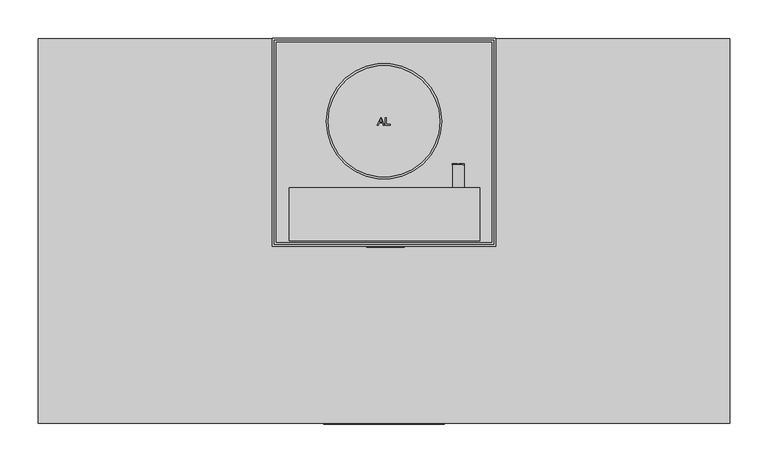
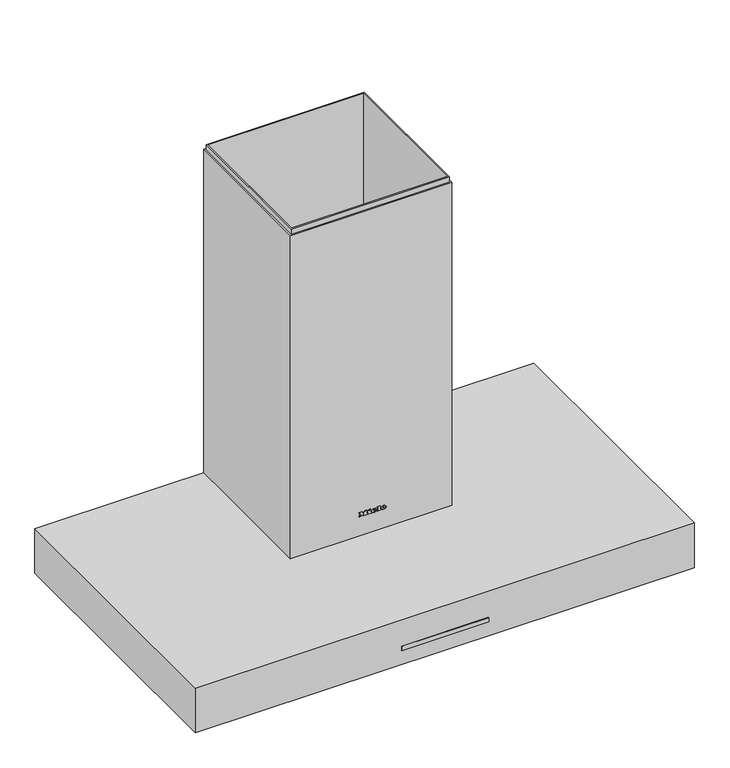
"""IFC4 building model written with IfcOpenShell, lengths in millimetres: proxy geometry, 10928070_B_DA6698W_BRWS : 28669830_B_10928070_DA6698W_BRWS."""

from ifc_helpers import new_model, si_unit, point, frame, frame_2d, origin, place, context, project, spatial, polyline, circle_curve, ellipse_curve, trimmed, segment, composite_curve, outline, extrude, faceted_brep, source, transform, mapped, element, save
from ifc_brep_helpers import plane_surface, cylinder_surface, revolved_surface, extruded_surface, advanced_brep


def specialty_equipment_04cf12e1(model_context):
    return source(origin(), model_context, "Body", "SolidModel", [
        advanced_brep(
        [(-270.0, -20.971114, 2.6236572), (-270.0, -76.028886, 17.3763428), (-270.0, -48.5, 10.0), (-270.0, -22.9370789, 1.9081045), (-270.0, -74.6840869, 15.7736735), (-270.0, -48.8105829, 8.840889)],
        [
            (0, 1, circle_curve(frame((-270.0, -48.5, 10.0), z_axis=(0.0, 0.25881904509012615, 0.9659258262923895), x_axis=(0.0, -0.9659258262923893, 0.2588190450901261)), 28.5)),
            (1, 2),
            (2, 0),
            (1, 0, circle_curve(frame((-270.0, -48.5, 10.0), z_axis=(0.0, 0.25881904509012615, 0.9659258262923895), x_axis=(0.0, -0.9659258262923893, 0.2588190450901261)), 28.5)),
            (0, 3),
            (3, 4, circle_curve(frame((-270.0, -48.8105829, 8.840889), z_axis=(0.0, 0.25881904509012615, 0.9659258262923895), x_axis=(0.0, -0.9659258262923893, 0.2588190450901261)), 26.7862224)),
            (4, 1),
            (4, 3, circle_curve(frame((-270.0, -48.8105829, 8.840889), z_axis=(0.0, 0.25881904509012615, 0.9659258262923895), x_axis=(0.0, -0.9659258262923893, 0.2588190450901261)), 26.7862224)),
            (3, 5),
            (5, 4),
        ],
        [
            plane_surface(frame((-270.0, -48.5, 10.0), z_axis=(0.0, 0.25881904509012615, 0.9659258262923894), x_axis=(0.0, -0.9659258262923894, 0.25881904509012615))),
            revolved_surface(polyline([(-270.0, -76.028886, 17.3763428), (-270.0, -74.6840869, 15.7736735)]), (-270.0, -48.5, 10.0), (0.0, -0.2588190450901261, -0.9659258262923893)),
            plane_surface(frame((-270.0, -48.8105829, 8.840889), z_axis=(0.0, -0.25881904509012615, -0.9659258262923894), x_axis=(0.0, -0.9659258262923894, 0.25881904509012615))),
        ],
        [
            (0, [[1, 2, 3]]),
            (0, [[-2, 4, -3]]),
            (1, [[-1, 5, 6, 7]]),
            (1, [[-4, -7, 8, -5]]),
            (2, [[-6, 9, 10]]),
            (2, [[-8, -10, -9]]),
        ],
    ),
        advanced_brep(
        [(0.0, -20.971114, 2.6236572), (0.0, -76.028886, 17.3763428), (0.0, -48.5, 10.0), (0.0, -22.9370789, 1.9081045), (0.0, -74.6840869, 15.7736735), (0.0, -48.8105829, 8.840889)],
        [
            (0, 1, circle_curve(frame((0.0, -48.5, 10.0), z_axis=(0.0, 0.2588190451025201, 0.9659258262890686), x_axis=(0.0, -0.9659258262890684, 0.25881904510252)), 28.5)),
            (1, 2),
            (2, 0),
            (1, 0, circle_curve(frame((0.0, -48.5, 10.0), z_axis=(0.0, 0.2588190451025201, 0.9659258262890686), x_axis=(0.0, -0.9659258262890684, 0.25881904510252)), 28.5)),
            (0, 3),
            (3, 4, circle_curve(frame((0.0, -48.8105829, 8.840889), z_axis=(0.0, 0.2588190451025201, 0.9659258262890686), x_axis=(0.0, -0.9659258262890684, 0.25881904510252)), 26.7862224)),
            (4, 1),
            (4, 3, circle_curve(frame((0.0, -48.8105829, 8.840889), z_axis=(0.0, 0.2588190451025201, 0.9659258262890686), x_axis=(0.0, -0.9659258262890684, 0.25881904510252)), 26.7862224)),
            (3, 5),
            (5, 4),
        ],
        [
            plane_surface(frame((0.0, -48.5, 10.0), z_axis=(0.0, 0.2588190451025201, 0.9659258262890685), x_axis=(0.0, -0.9659258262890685, 0.2588190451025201))),
            revolved_surface(polyline([(0.0, -76.028886, 17.3763428), (0.0, -74.6840869, 15.7736735)]), (0.0, -48.5, 10.0), (0.0, -0.25881904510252, -0.9659258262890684)),
            plane_surface(frame((0.0, -48.8105829, 8.840889), z_axis=(0.0, -0.2588190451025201, -0.9659258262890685), x_axis=(0.0, -0.9659258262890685, 0.2588190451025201))),
        ],
        [
            (0, [[1, 2, 3]]),
            (0, [[-2, 4, -3]]),
            (1, [[-1, 5, 6, 7]]),
            (1, [[-4, -7, 8, -5]]),
            (2, [[-6, 9, 10]]),
            (2, [[-8, -10, -9]]),
        ],
    ),
        advanced_brep(
        [(270.0, -20.971114, 2.6236572), (270.0, -76.028886, 17.3763428), (270.0, -48.5, 10.0), (270.0, -22.9370789, 1.9081045), (270.0, -74.6840869, 15.7736735), (270.0, -48.8105829, 8.840889)],
        [
            (0, 1, circle_curve(frame((270.0, -48.5, 10.0), z_axis=(0.0, 0.2588190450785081, 0.9659258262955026), x_axis=(0.0, -0.9659258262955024, 0.25881904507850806)), 28.5)),
            (1, 2),
            (2, 0),
            (1, 0, circle_curve(frame((270.0, -48.5, 10.0), z_axis=(0.0, 0.2588190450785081, 0.9659258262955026), x_axis=(0.0, -0.9659258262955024, 0.25881904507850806)), 28.5)),
            (0, 3),
            (3, 4, circle_curve(frame((270.0, -48.8105829, 8.840889), z_axis=(0.0, 0.2588190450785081, 0.9659258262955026), x_axis=(0.0, -0.9659258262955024, 0.25881904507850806)), 26.7862224)),
            (4, 1),
            (4, 3, circle_curve(frame((270.0, -48.8105829, 8.840889), z_axis=(0.0, 0.2588190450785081, 0.9659258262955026), x_axis=(0.0, -0.9659258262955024, 0.25881904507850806)), 26.7862224)),
            (3, 5),
            (5, 4),
        ],
        [
            plane_surface(frame((270.0, -48.5, 10.0), z_axis=(0.0, 0.2588190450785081, 0.9659258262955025), x_axis=(0.0, -0.9659258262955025, 0.2588190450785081))),
            revolved_surface(polyline([(270.0, -76.028886, 17.3763428), (270.0, -74.6840869, 15.7736735)]), (270.0, -48.5, 10.0), (0.0, -0.25881904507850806, -0.9659258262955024)),
            plane_surface(frame((270.0, -48.8105829, 8.840889), z_axis=(0.0, -0.2588190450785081, -0.9659258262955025), x_axis=(0.0, -0.9659258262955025, 0.2588190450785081))),
        ],
        [
            (0, [[1, 2, 3]]),
            (0, [[-2, 4, -3]]),
            (1, [[-1, 5, 6, 7]]),
            (1, [[-4, -7, 8, -5]]),
            (2, [[-6, 9, 10]]),
            (2, [[-8, -10, -9]]),
        ],
    ),
        extrude(outline(polyline([(131.6666667, -106.0), (131.6666667, -464.0), (-131.6666667, -464.0), (-131.6666667, -106.0), (131.6666667, -106.0)])), frame((0.0, 0.0, 6.5), z_axis=(0.0, 0.0, 1.0), x_axis=(1.0, 0.0, 0.0)), (0.0, 0.0, 1.0), 6.0),
        extrude(outline(polyline([(140.6666667, -97.0), (140.6666667, -473.0), (-140.6666667, -473.0), (-140.6666667, -97.0), (140.6666667, -97.0)]), holes=[polyline([(131.6666667, -106.0), (-131.6666667, -106.0), (-131.6666667, -464.0), (131.6666667, -464.0), (131.6666667, -106.0)])]), frame((0.0, 0.0, 5.0), z_axis=(0.0, 0.0, 1.0), x_axis=(1.0, 0.0, 0.0)), (0.0, 0.0, 1.0), 9.0),
        extrude(outline(polyline([(149.6666667, -106.0), (413.0, -106.0), (413.0, -464.0), (149.6666667, -464.0), (149.6666667, -106.0)])), frame((0.0, 0.0, 6.5), z_axis=(0.0, 0.0, 1.0), x_axis=(1.0, 0.0, 0.0)), (0.0, 0.0, 1.0), 6.0),
        extrude(outline(polyline([(140.6666667, -97.0), (422.0, -97.0), (422.0, -473.0), (140.6666667, -473.0), (140.6666667, -97.0)]), holes=[polyline([(149.6666667, -106.0), (149.6666667, -464.0), (413.0, -464.0), (413.0, -106.0), (149.6666667, -106.0)])]), frame((0.0, 0.0, 5.0), z_axis=(0.0, 0.0, 1.0), x_axis=(1.0, 0.0, 0.0)), (0.0, 0.0, 1.0), 9.0),
        extrude(outline(polyline([(-149.6666667, -106.0), (-149.6666667, -464.0), (-413.0, -464.0), (-413.0, -106.0), (-149.6666667, -106.0)])), frame((0.0, 0.0, 6.5), z_axis=(0.0, 0.0, 1.0), x_axis=(1.0, 0.0, 0.0)), (0.0, 0.0, 1.0), 6.0),
        extrude(outline(polyline([(-140.6666667, -97.0), (-140.6666667, -473.0), (-422.0, -473.0), (-422.0, -97.0), (-140.6666667, -97.0)]), holes=[polyline([(-149.6666667, -106.0), (-413.0, -106.0), (-413.0, -464.0), (-149.6666667, -464.0), (-149.6666667, -106.0)])]), frame((0.0, 0.0, 5.0), z_axis=(0.0, 0.0, 1.0), x_axis=(1.0, 0.0, 0.0)), (0.0, 0.0, 1.0), 9.0),
        extrude(outline(polyline([(16.5, -421.0), (16.5, -464.0), (-16.5, -464.0), (-16.5, -421.0), (16.5, -421.0)]), holes=[polyline([(10.0, -427.5), (-10.0, -427.5), (-10.0, -436.5), (10.0, -436.5), (10.0, -427.5)])]), frame((0.0, 0.0, 5.0), z_axis=(0.0, 0.0, 1.0), x_axis=(1.0, 0.0, 0.0)), (0.0, 0.0, 1.0), 1.5),
        extrude(outline(polyline([(264.8333333, -421.0), (297.8333333, -421.0), (297.8333333, -464.0), (264.8333333, -464.0), (264.8333333, -421.0)]), holes=[polyline([(271.3333333, -427.5), (271.3333333, -436.5), (291.1047662, -436.5), (291.1047662, -427.5), (271.3333333, -427.5)])]), frame((0.0, 0.0, 5.0), z_axis=(0.0, 0.0, 1.0), x_axis=(1.0, 0.0, 0.0)), (0.0, 0.0, 1.0), 1.5),
        extrude(outline(polyline([(-264.8333333, -421.0), (-264.8333333, -464.0), (-297.8333333, -464.0), (-297.8333333, -421.0), (-264.8333333, -421.0)]), holes=[polyline([(-271.3333333, -427.5), (-291.3333333, -427.5), (-291.3333333, -436.5), (-271.3333333, -436.5), (-271.3333333, -427.5)])]), frame((0.0, 0.0, 5.0), z_axis=(0.0, 0.0, 1.0), x_axis=(1.0, 0.0, 0.0)), (0.0, 0.0, 1.0), 1.5),
        faceted_brep([(-142.5, -267.5, 235.0), (-142.5, -2.5, 235.0), (142.5, -2.5, 235.0), (142.5, -267.5, 235.0), (140.0, -5.0, 235.0), (-140.0, -5.0, 235.0), (-140.0, -265.0, 235.0), (140.0, -265.0, 235.0), (-121.0, -265.0, 370.0), (-121.0, -267.5, 370.0), (-121.0, -267.5, 270.0), (-121.0, -265.0, 270.0), (-142.5, -2.5, 710.0), (142.5, -2.5, 710.0), (140.0, -225.8, 270.0), (142.5, -225.8, 270.0), (142.5, -215.2, 270.0), (140.0, -215.2, 270.0), (142.5, -215.2, 370.0), (140.0, -215.2, 370.0), (142.5, -225.8, 370.0), (140.0, -225.8, 370.0), (142.5, -204.6, 270.0), (140.0, -204.6, 270.0), (140.0, -204.6, 370.0), (142.5, -204.6, 370.0), (140.0, -194.0, 270.0), (142.5, -194.0, 270.0), (142.5, -194.0, 370.0), (140.0, -194.0, 370.0), (142.5, -183.4, 270.0), (140.0, -183.4, 270.0), (140.0, -183.4, 370.0), (142.5, -183.4, 370.0), (140.0, -172.8, 270.0), (142.5, -172.8, 270.0), (142.5, -172.8, 370.0), (140.0, -172.8, 370.0), (142.5, -162.2, 270.0), (140.0, -162.2, 270.0), (140.0, -162.2, 370.0), (142.5, -162.2, 370.0), (140.0, -151.6, 270.0), (142.5, -151.6, 270.0), (142.5, -151.6, 370.0), (140.0, -151.6, 370.0), (142.5, -44.2, 370.0), (140.0, -44.2, 370.0), (140.0, -44.2, 270.0), (142.5, -44.2, 270.0), (140.0, -54.8, 370.0), (142.5, -54.8, 370.0), (142.5, -54.8, 270.0), (140.0, -54.8, 270.0), (142.5, -65.4, 370.0), (140.0, -65.4, 370.0), (140.0, -65.4, 270.0), (142.5, -65.4, 270.0), (140.0, -76.0, 370.0), (142.5, -76.0, 370.0), (142.5, -76.0, 270.0), (140.0, -76.0, 270.0), (142.5, -86.6, 370.0), (140.0, -86.6, 370.0), (140.0, -86.6, 270.0), (142.5, -86.6, 270.0), (140.0, -97.2, 370.0), (142.5, -97.2, 370.0), (142.5, -97.2, 270.0), (140.0, -97.2, 270.0), (142.5, -107.8, 370.0), (140.0, -107.8, 370.0), (140.0, -107.8, 270.0), (142.5, -107.8, 270.0), (140.0, -118.4, 370.0), (142.5, -118.4, 370.0), (142.5, -118.4, 270.0), (140.0, -118.4, 270.0), (142.5, -129.0, 370.0), (140.0, -129.0, 370.0), (140.0, -129.0, 270.0), (142.5, -129.0, 270.0), (140.0, -141.0, 370.0), (142.5, -141.0, 370.0), (142.5, -141.0, 270.0), (140.0, -141.0, 270.0), (-140.0, -236.4, 270.0), (-142.5, -236.4, 270.0), (-142.5, -247.0, 270.0), (-140.0, -247.0, 270.0), (-142.5, -236.4, 370.0), (-140.0, -236.4, 370.0), (-140.0, -247.0, 370.0), (-142.5, -247.0, 370.0), (-140.0, -215.2, 270.0), (-142.5, -215.2, 270.0), (-142.5, -225.8, 270.0), (-140.0, -225.8, 270.0), (-142.5, -215.2, 370.0), (-140.0, -215.2, 370.0), (-140.0, -225.8, 370.0), (-142.5, -225.8, 370.0), (-140.0, -194.0, 270.0), (-142.5, -194.0, 270.0), (-142.5, -204.6, 270.0), (-140.0, -204.6, 270.0), (-142.5, -194.0, 370.0), (-140.0, -194.0, 370.0), (-140.0, -204.6, 370.0), (-142.5, -204.6, 370.0), (-140.0, -172.8, 270.0), (-142.5, -172.8, 270.0), (-142.5, -183.4, 270.0), (-140.0, -183.4, 270.0), (-142.5, -172.8, 370.0), (-140.0, -172.8, 370.0), (-140.0, -183.4, 370.0), (-142.5, -183.4, 370.0), (-140.0, -151.6, 270.0), (-142.5, -151.6, 270.0), (-142.5, -162.2, 270.0), (-140.0, -162.2, 270.0), (-142.5, -151.6, 370.0), (-140.0, -151.6, 370.0), (-140.0, -162.2, 370.0), (-142.5, -162.2, 370.0), (-140.0, -129.0, 270.0), (-142.5, -129.0, 270.0), (-142.5, -141.0, 270.0), (-140.0, -141.0, 270.0), (-142.5, -129.0, 370.0), (-140.0, -129.0, 370.0), (-140.0, -141.0, 370.0), (-142.5, -141.0, 370.0), (-140.0, -107.8, 270.0), (-142.5, -107.8, 270.0), (-142.5, -118.4, 270.0), (-140.0, -118.4, 270.0), (-142.5, -107.8, 370.0), (-140.0, -107.8, 370.0), (-140.0, -118.4, 370.0), (-142.5, -118.4, 370.0), (-140.0, -86.6, 270.0), (-142.5, -86.6, 270.0), (-142.5, -97.2, 270.0), (-140.0, -97.2, 270.0), (-142.5, -86.6, 370.0), (-140.0, -86.6, 370.0), (-140.0, -97.2, 370.0), (-142.5, -97.2, 370.0), (-140.0, -65.4, 270.0), (-142.5, -65.4, 270.0), (-142.5, -76.0, 270.0), (-140.0, -76.0, 270.0), (-142.5, -65.4, 370.0), (-140.0, -65.4, 370.0), (-140.0, -76.0, 370.0), (-142.5, -76.0, 370.0), (-140.0, -44.2, 270.0), (-142.5, -44.2, 270.0), (-142.5, -54.8, 270.0), (-140.0, -54.8, 270.0), (-142.5, -44.2, 370.0), (-140.0, -44.2, 370.0), (-140.0, -54.8, 370.0), (-142.5, -54.8, 370.0), (-140.0, -23.0, 270.0), (-142.5, -23.0, 270.0), (-142.5, -33.6, 270.0), (-140.0, -33.6, 270.0), (-142.5, -23.0, 370.0), (-140.0, -23.0, 370.0), (-140.0, -33.6, 370.0), (-142.5, -33.6, 370.0), (-109.0, -265.0, 370.0), (-109.0, -267.5, 370.0), (-109.0, -265.0, 270.0), (-109.0, -267.5, 270.0), (121.0, -267.5, 270.0), (121.0, -265.0, 270.0), (109.0, -265.0, 270.0), (109.0, -267.5, 270.0), (-86.0, -265.0, 370.0), (-86.0, -267.5, 370.0), (-97.5, -267.5, 370.0), (-97.5, -265.0, 370.0), (-86.0, -265.0, 270.0), (-86.0, -267.5, 270.0), (-97.5, -265.0, 270.0), (-97.5, -267.5, 270.0), (-63.0, -265.0, 370.0), (-63.0, -267.5, 370.0), (-74.5, -267.5, 370.0), (-74.5, -265.0, 370.0), (-63.0, -267.5, 270.0), (-63.0, -265.0, 270.0), (-74.5, -265.0, 270.0), (-74.5, -267.5, 270.0), (-40.0, -265.0, 370.0), (-40.0, -267.5, 370.0), (-51.5, -267.5, 370.0), (-51.5, -265.0, 370.0), (-40.0, -267.5, 270.0), (-40.0, -265.0, 270.0), (-51.5, -265.0, 270.0), (-51.5, -267.5, 270.0), (-17.0, -265.0, 370.0), (-17.0, -267.5, 370.0), (-28.5, -267.5, 370.0), (-28.5, -265.0, 370.0), (-17.0, -267.5, 270.0), (-17.0, -265.0, 270.0), (-28.5, -265.0, 270.0), (-28.5, -267.5, 270.0), (5.5, -265.0, 370.0), (5.5, -267.5, 370.0), (-5.5, -267.5, 370.0), (-5.5, -265.0, 370.0), (5.5, -267.5, 270.0), (5.5, -265.0, 270.0), (-5.5, -265.0, 270.0), (-5.5, -267.5, 270.0), (28.5, -265.0, 370.0), (28.5, -267.5, 370.0), (17.0, -267.5, 370.0), (17.0, -265.0, 370.0), (28.5, -267.5, 270.0), (28.5, -265.0, 270.0), (17.0, -265.0, 270.0), (17.0, -267.5, 270.0), (51.5, -265.0, 370.0), (51.5, -267.5, 370.0), (40.0, -267.5, 370.0), (40.0, -265.0, 370.0), (51.5, -267.5, 270.0), (51.5, -265.0, 270.0), (40.0, -265.0, 270.0), (40.0, -267.5, 270.0), (74.5, -265.0, 370.0), (74.5, -267.5, 370.0), (63.0, -267.5, 370.0), (63.0, -265.0, 370.0), (74.5, -267.5, 270.0), (74.5, -265.0, 270.0), (63.0, -265.0, 270.0), (63.0, -267.5, 270.0), (97.5, -265.0, 370.0), (97.5, -267.5, 370.0), (86.0, -267.5, 370.0), (86.0, -265.0, 370.0), (97.5, -267.5, 270.0), (97.5, -265.0, 270.0), (86.0, -265.0, 270.0), (86.0, -267.5, 270.0), (-142.5, -267.5, 710.0), (142.5, -267.5, 710.0), (140.0, -5.0, 710.0), (140.0, -265.0, 710.0), (-140.0, -265.0, 710.0), (-140.0, -5.0, 710.0), (121.0, -265.0, 370.0), (109.0, -265.0, 370.0), (140.0, -247.0, 370.0), (140.0, -247.0, 270.0), (140.0, -236.4, 270.0), (140.0, -236.4, 370.0), (140.0, -23.0, 270.0), (140.0, -23.0, 370.0), (140.0, -33.6, 370.0), (140.0, -33.6, 270.0), (142.5, -23.0, 370.0), (142.5, -23.0, 270.0), (142.5, -33.6, 270.0), (142.5, -33.6, 370.0), (142.5, -247.0, 270.0), (142.5, -247.0, 370.0), (142.5, -236.4, 370.0), (142.5, -236.4, 270.0), (121.0, -267.5, 370.0), (109.0, -267.5, 370.0)], [[[0, 1, 2, 3], [4, 5, 6, 7]], [[8, 9, 10, 11]], [[12, 13, 2, 1]], [[14, 15, 16, 17]], [[17, 16, 18, 19]], [[20, 21, 19, 18]], [[22, 23, 24, 25]], [[26, 27, 28, 29]], [[30, 31, 32, 33]], [[34, 35, 36, 37]], [[38, 39, 40, 41]], [[42, 43, 44, 45]], [[46, 47, 48, 49]], [[50, 51, 52, 53]], [[54, 55, 56, 57]], [[58, 59, 60, 61]], [[62, 63, 64, 65]], [[66, 67, 68, 69]], [[70, 71, 72, 73]], [[74, 75, 76, 77]], [[78, 79, 80, 81]], [[82, 83, 84, 85]], [[86, 87, 88, 89]], [[90, 91, 92, 93]], [[94, 95, 96, 97]], [[98, 99, 100, 101]], [[102, 103, 104, 105]], [[106, 107, 108, 109]], [[110, 111, 112, 113]], [[114, 115, 116, 117]], [[118, 119, 120, 121]], [[122, 123, 124, 125]], [[126, 127, 128, 129]], [[130, 131, 132, 133]], [[134, 135, 136, 137]], [[138, 139, 140, 141]], [[142, 143, 144, 145]], [[146, 147, 148, 149]], [[150, 151, 152, 153]], [[154, 155, 156, 157]], [[158, 159, 160, 161]], [[162, 163, 164, 165]], [[166, 167, 168, 169]], [[170, 171, 172, 173]], [[9, 8, 174, 175]], [[175, 174, 176, 177]], [[11, 10, 177, 176]], [[178, 179, 180, 181]], [[182, 183, 184, 185]], [[183, 182, 186, 187]], [[187, 186, 188, 189]], [[185, 184, 189, 188]], [[190, 191, 192, 193]], [[194, 195, 196, 197]], [[198, 199, 200, 201]], [[202, 203, 204, 205]], [[206, 207, 208, 209]], [[210, 211, 212, 213]], [[214, 215, 216, 217]], [[218, 219, 220, 221]], [[222, 223, 224, 225]], [[226, 227, 228, 229]], [[230, 231, 232, 233]], [[234, 235, 236, 237]], [[238, 239, 240, 241]], [[242, 243, 244, 245]], [[246, 247, 248, 249]], [[250, 251, 252, 253]], [[254, 255, 13, 12], [256, 257, 258, 259]], [[254, 12, 1, 0], [120, 119, 122, 125], [128, 127, 130, 133], [136, 135, 138, 141], [144, 143, 146, 149], [152, 151, 154, 157], [160, 159, 162, 165], [168, 167, 170, 173], [88, 87, 90, 93], [96, 95, 98, 101], [104, 103, 106, 109], [112, 111, 114, 117]], [[258, 257, 7, 6], [8, 11, 176, 174], [182, 185, 188, 186], [190, 193, 196, 195], [198, 201, 204, 203], [206, 209, 212, 211], [214, 217, 220, 219], [222, 225, 228, 227], [230, 233, 236, 235], [238, 241, 244, 243], [246, 249, 252, 251], [179, 260, 261, 180]], [[259, 258, 6, 5], [86, 89, 92, 91], [94, 97, 100, 99], [102, 105, 108, 107], [110, 113, 116, 115], [118, 121, 124, 123], [126, 129, 132, 131], [134, 137, 140, 139], [142, 145, 148, 147], [150, 153, 156, 155], [158, 161, 164, 163], [166, 169, 172, 171]], [[257, 256, 4, 7], [262, 263, 264, 265], [21, 14, 17, 19], [24, 23, 26, 29], [32, 31, 34, 37], [40, 39, 42, 45], [48, 47, 50, 53], [56, 55, 58, 61], [64, 63, 66, 69], [72, 71, 74, 77], [80, 79, 82, 85], [266, 267, 268, 269]], [[13, 255, 3, 2], [270, 271, 272, 273], [274, 275, 276, 277], [15, 20, 18, 16], [22, 25, 28, 27], [38, 41, 44, 43], [30, 33, 36, 35], [46, 49, 52, 51], [54, 57, 60, 59], [62, 65, 68, 67], [70, 73, 76, 75], [78, 81, 84, 83]], [[255, 254, 0, 3], [278, 178, 181, 279], [10, 9, 175, 177], [184, 183, 187, 189], [192, 191, 194, 197], [200, 199, 202, 205], [208, 207, 210, 213], [216, 215, 218, 221], [224, 223, 226, 229], [232, 231, 234, 237], [240, 239, 242, 245], [248, 247, 250, 253]], [[256, 259, 5, 4]], [[179, 178, 278, 260]], [[274, 263, 262, 275]], [[270, 267, 266, 271]], [[263, 274, 277, 264]], [[264, 277, 276, 265]], [[275, 262, 265, 276]], [[267, 270, 273, 268]], [[268, 273, 272, 269]], [[271, 266, 269, 272]], [[15, 14, 21, 20]], [[23, 22, 27, 26]], [[25, 24, 29, 28]], [[31, 30, 35, 34]], [[33, 32, 37, 36]], [[39, 38, 43, 42]], [[41, 40, 45, 44]], [[47, 46, 51, 50]], [[49, 48, 53, 52]], [[55, 54, 59, 58]], [[57, 56, 61, 60]], [[63, 62, 67, 66]], [[65, 64, 69, 68]], [[71, 70, 75, 74]], [[73, 72, 77, 76]], [[79, 78, 83, 82]], [[81, 80, 85, 84]], [[87, 86, 91, 90]], [[89, 88, 93, 92]], [[95, 94, 99, 98]], [[97, 96, 101, 100]], [[103, 102, 107, 106]], [[105, 104, 109, 108]], [[111, 110, 115, 114]], [[113, 112, 117, 116]], [[119, 118, 123, 122]], [[121, 120, 125, 124]], [[127, 126, 131, 130]], [[129, 128, 133, 132]], [[135, 134, 139, 138]], [[137, 136, 141, 140]], [[143, 142, 147, 146]], [[145, 144, 149, 148]], [[151, 150, 155, 154]], [[153, 152, 157, 156]], [[159, 158, 163, 162]], [[161, 160, 165, 164]], [[167, 166, 171, 170]], [[169, 168, 173, 172]], [[181, 180, 261, 279]], [[260, 278, 279, 261]], [[191, 190, 195, 194]], [[193, 192, 197, 196]], [[199, 198, 203, 202]], [[201, 200, 205, 204]], [[207, 206, 211, 210]], [[209, 208, 213, 212]], [[215, 214, 219, 218]], [[217, 216, 221, 220]], [[223, 222, 227, 226]], [[225, 224, 229, 228]], [[231, 230, 235, 234]], [[233, 232, 237, 236]], [[239, 238, 243, 242]], [[241, 240, 245, 244]], [[247, 246, 251, 250]], [[249, 248, 253, 252]]]),
        extrude(outline(polyline([(145.0, 0.0), (145.0, -270.0), (-145.0, -270.0), (-145.0, 0.0), (145.0, 0.0)]), holes=[polyline([(-142.5, -2.5), (-142.5, -267.5), (142.5, -267.5), (142.5, -2.5), (-142.5, -2.5)])]), frame((0.0, 0.0, 85.0), z_axis=(0.0, 0.0, 1.0), x_axis=(1.0, 0.0, 0.0)), (0.0, 0.0, 1.0), 615.0),
        advanced_brep(
        [(21.104, -271.0, 123.896), (21.104, -271.0, 124.704), (26.456, -271.0, 124.704), (17.144, -271.0, 124.704), (19.344, -271.0, 122.0), (26.32, -271.0, 123.896), (23.904, -271.0, 123.896), (22.0, -271.0, 123.0), (21.104, -271.0, 125.728), (21.104, -271.0, 126.6), (22.472, -271.0, 126.6), (22.472, -271.0, 125.728), (21.104, -270.0, 123.896), (22.0, -270.0, 123.0), (23.904, -270.0, 123.896), (26.32, -270.0, 123.896), (19.344, -270.0, 122.0), (17.144, -270.0, 124.704), (26.456, -270.0, 124.704), (21.104, -270.0, 124.704), (21.104, -270.0, 125.728), (22.472, -270.0, 125.728), (22.472, -270.0, 126.6), (21.104, -270.0, 126.6)],
        [
            (0, 1),
            (1, 2),
            (2, 3, ellipse_curve(frame((21.8, -271.0, 124.704), z_axis=(0.0, -1.0, -1.2192856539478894e-11), x_axis=(-1.0, 0.0, 0.0)), 4.656, 3.848)),
            (3, 4, circle_curve(frame((20.2400436, -271.0, 124.976), z_axis=(0.0, -1.0, -1.2192856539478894e-11), x_axis=(0.0, 1.2192856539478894e-11, -1.0)), 3.1079688)),
            (4, 5, circle_curve(frame((21.7067936, -271.0, 127.088), z_axis=(0.0, -1.0, -1.2192856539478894e-11), x_axis=(0.0, 1.2192856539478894e-11, -1.0)), 5.6098607)),
            (5, 6),
            (6, 7, circle_curve(frame((22.3910588, -271.0, 124.64), z_axis=(0.0, 1.0, 1.2192856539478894e-11), x_axis=(0.0, 1.2192856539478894e-11, -1.0)), 1.6859795)),
            (7, 0, circle_curve(frame((22.0, -271.0, 123.896), z_axis=(0.0, 1.0, 1.2192856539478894e-11), x_axis=(0.0, 1.2192856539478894e-11, -1.0)), 0.896)),
            (8, 9),
            (9, 10, circle_curve(frame((21.788, -271.0, 126.6), z_axis=(0.0, 1.0, 1.2192856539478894e-11), x_axis=(0.0, 1.2192856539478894e-11, -1.0)), 0.684)),
            (10, 11),
            (11, 8),
            (12, 13, circle_curve(frame((22.0, -270.0, 123.896), z_axis=(0.0, -1.0, -1.2192856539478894e-11), x_axis=(0.0, 1.2192856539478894e-11, -1.0)), 0.896)),
            (13, 14, circle_curve(frame((22.3910588, -270.0, 124.64), z_axis=(0.0, -1.0, -1.2192856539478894e-11), x_axis=(0.0, 1.2192856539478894e-11, -1.0)), 1.6859795)),
            (14, 15),
            (15, 16, circle_curve(frame((21.7067936, -270.0, 127.088), z_axis=(0.0, 1.0, 1.2192856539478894e-11), x_axis=(0.0, 1.2192856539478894e-11, -1.0)), 5.6098607)),
            (16, 17, circle_curve(frame((20.2400436, -270.0, 124.976), z_axis=(0.0, 1.0, 1.2192856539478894e-11), x_axis=(0.0, 1.2192856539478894e-11, -1.0)), 3.1079688)),
            (17, 18, ellipse_curve(frame((21.8, -270.0, 124.704), z_axis=(0.0, 1.0, 1.2192856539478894e-11), x_axis=(-1.0, 0.0, 0.0)), 4.656, 3.848)),
            (18, 19),
            (19, 12),
            (20, 21),
            (21, 22),
            (22, 23, circle_curve(frame((21.788, -270.0, 126.6), z_axis=(0.0, -1.0, -1.2192856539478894e-11), x_axis=(0.0, 1.2192856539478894e-11, -1.0)), 0.684)),
            (23, 20),
            (0, 12),
            (19, 1),
            (18, 2),
            (5, 15),
            (14, 6),
            (17, 3),
            (13, 7),
            (16, 4),
            (8, 20),
            (23, 9),
            (22, 10),
            (21, 11),
        ],
        [
            plane_surface(frame((21.104, -271.0, 124.704), z_axis=(0.0, -1.0, -1.2192856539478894e-11), x_axis=(0.0, -1.2192856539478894e-11, 1.0))),
            plane_surface(frame((21.104, -270.0, 124.704), z_axis=(0.0, 1.0, 1.2192856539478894e-11), x_axis=(0.0, 1.2192856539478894e-11, -1.0))),
            plane_surface(frame((21.104, -271.0, 123.896), z_axis=(1.0, 0.0, 0.0), x_axis=(0.0, 1.0, 1.2192856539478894e-11))),
            plane_surface(frame((21.104, -271.0, 124.704), z_axis=(0.0, 1.2192856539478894e-11, -1.0), x_axis=(0.0, 1.0, 1.2192856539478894e-11))),
            plane_surface(frame((26.32, -271.0, 123.896), z_axis=(0.0, -1.2192856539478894e-11, 1.0), x_axis=(0.0, 1.0, 1.2192856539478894e-11))),
            extruded_surface(trimmed(ellipse_curve(frame((21.8, -269.0, 124.704), z_axis=(0.0, -1.0, -1.2192856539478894e-11), x_axis=(-1.0, 0.0, 0.0)), 4.656, 3.848), [point((26.456, -269.0, 124.704))], [point((17.144, -269.0, 124.704))], True, "CARTESIAN"), (0.0, -1.0, 0.0), 1.0),
            revolved_surface(polyline([(22.3910588, -269.9999999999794, 122.9540205), (22.3910588, -270.99999999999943, 122.9540204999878)]), (22.3910588, -270.0, 124.64), (0.0, 1.0, 1.2192856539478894e-11)),
            revolved_surface(polyline([(22.0, -269.9999999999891, 123.0), (22.0, -271.0, 122.9999999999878)]), (22.0, -270.0, 123.896), (0.0, 1.0, 1.2192856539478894e-11)),
            cylinder_surface(frame((20.2400436, -270.0, 124.976), z_axis=(0.0, -1.0, -1.2192856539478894e-11), x_axis=(0.0, 1.2192856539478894e-11, -1.0)), 3.1079688),
            cylinder_surface(frame((21.7067936, -270.0, 127.088), z_axis=(0.0, -1.0, -1.2192856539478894e-11), x_axis=(0.0, 1.2192856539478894e-11, -1.0)), 5.6098607),
            plane_surface(frame((21.104, -271.0, 125.728), z_axis=(1.0, 0.0, 0.0), x_axis=(0.0, 1.0, 1.2192856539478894e-11))),
            revolved_surface(polyline([(21.788, -269.99999999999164, 125.916), (21.788, -270.99999999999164, 125.9159999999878)]), (21.788, -270.0, 126.6), (0.0, 1.0, 1.2192856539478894e-11)),
            plane_surface(frame((22.472, -271.0, 126.6), z_axis=(-1.0, 0.0, 0.0), x_axis=(0.0, 1.0, 1.2192856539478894e-11))),
            plane_surface(frame((22.472, -271.0, 125.728), z_axis=(0.0, -1.2192856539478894e-11, 1.0), x_axis=(0.0, 1.0, 1.2192856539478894e-11))),
        ],
        [
            (0, [[1, 2, 3, 4, 5, 6, 7, 8], [9, 10, 11, 12]]),
            (1, [[13, 14, 15, 16, 17, 18, 19, 20], [21, 22, 23, 24]]),
            (2, [[-1, 25, -20, 26]]),
            (3, [[-2, -26, -19, 27]]),
            (4, [[-6, 28, -15, 29]]),
            (5, [[-3, -27, -18, 30]]),
            (6, [[-7, -29, -14, 31]]),
            (7, [[-8, -31, -13, -25]]),
            (8, [[-4, -30, -17, 32]]),
            (9, [[-5, -32, -16, -28]]),
            (10, [[-9, 33, -24, 34]]),
            (11, [[-10, -34, -23, 35]]),
            (12, [[-11, -35, -22, 36]]),
            (13, [[-12, -36, -21, -33]]),
        ],
    ),
        advanced_brep(
        [(4.408, -271.0, 123.896), (4.408, -271.0, 124.704), (9.76, -271.0, 124.704), (0.448, -271.0, 124.704), (2.648, -271.0, 122.0), (9.624, -271.0, 123.896), (7.208, -271.0, 123.896), (5.304, -271.0, 123.0), (4.408, -271.0, 125.728), (4.408, -271.0, 126.6), (5.776, -271.0, 126.6), (5.776, -271.0, 125.728), (4.408, -270.0, 123.896), (5.304, -270.0, 123.0), (7.208, -270.0, 123.896), (9.624, -270.0, 123.896), (2.648, -270.0, 122.0), (0.448, -270.0, 124.704), (9.76, -270.0, 124.704), (4.408, -270.0, 124.704), (4.408, -270.0, 125.728), (5.776, -270.0, 125.728), (5.776, -270.0, 126.6), (4.408, -270.0, 126.6)],
        [
            (0, 1),
            (1, 2),
            (2, 3, ellipse_curve(frame((5.104, -271.0, 124.704), z_axis=(0.0, -1.0, -1.2192856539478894e-11), x_axis=(-1.0, 0.0, 0.0)), 4.656, 3.848)),
            (3, 4, circle_curve(frame((3.5440436, -271.0, 124.976), z_axis=(0.0, -1.0, -1.2192856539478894e-11), x_axis=(0.0, 1.2192856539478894e-11, -1.0)), 3.1079688)),
            (4, 5, circle_curve(frame((5.0107936, -271.0, 127.088), z_axis=(0.0, -1.0, -1.2192856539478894e-11), x_axis=(0.0, 1.2192856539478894e-11, -1.0)), 5.6098607)),
            (5, 6),
            (6, 7, circle_curve(frame((5.6950588, -271.0, 124.64), z_axis=(0.0, 1.0, 1.2192856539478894e-11), x_axis=(0.0, 1.2192856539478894e-11, -1.0)), 1.6859795)),
            (7, 0, circle_curve(frame((5.304, -271.0, 123.896), z_axis=(0.0, 1.0, 1.2192856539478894e-11), x_axis=(0.0, 1.2192856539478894e-11, -1.0)), 0.896)),
            (8, 9),
            (9, 10, circle_curve(frame((5.092, -271.0, 126.6), z_axis=(0.0, 1.0, 1.2192856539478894e-11), x_axis=(0.0, 1.2192856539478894e-11, -1.0)), 0.684)),
            (10, 11),
            (11, 8),
            (12, 13, circle_curve(frame((5.304, -270.0, 123.896), z_axis=(0.0, -1.0, -1.2192856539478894e-11), x_axis=(0.0, 1.2192856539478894e-11, -1.0)), 0.896)),
            (13, 14, circle_curve(frame((5.6950588, -270.0, 124.64), z_axis=(0.0, -1.0, -1.2192856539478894e-11), x_axis=(0.0, 1.2192856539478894e-11, -1.0)), 1.6859795)),
            (14, 15),
            (15, 16, circle_curve(frame((5.0107936, -270.0, 127.088), z_axis=(0.0, 1.0, 1.2192856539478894e-11), x_axis=(0.0, 1.2192856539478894e-11, -1.0)), 5.6098607)),
            (16, 17, circle_curve(frame((3.5440436, -270.0, 124.976), z_axis=(0.0, 1.0, 1.2192856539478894e-11), x_axis=(0.0, 1.2192856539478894e-11, -1.0)), 3.1079688)),
            (17, 18, ellipse_curve(frame((5.104, -270.0, 124.704), z_axis=(0.0, 1.0, 1.2192856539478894e-11), x_axis=(-1.0, 0.0, 0.0)), 4.656, 3.848)),
            (18, 19),
            (19, 12),
            (20, 21),
            (21, 22),
            (22, 23, circle_curve(frame((5.092, -270.0, 126.6), z_axis=(0.0, -1.0, -1.2192856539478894e-11), x_axis=(0.0, 1.2192856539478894e-11, -1.0)), 0.684)),
            (23, 20),
            (0, 12),
            (19, 1),
            (18, 2),
            (5, 15),
            (14, 6),
            (17, 3),
            (13, 7),
            (16, 4),
            (8, 20),
            (23, 9),
            (22, 10),
            (21, 11),
        ],
        [
            plane_surface(frame((4.408, -271.0, 124.704), z_axis=(0.0, -1.0, -1.2192856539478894e-11), x_axis=(0.0, -1.2192856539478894e-11, 1.0))),
            plane_surface(frame((4.408, -270.0, 124.704), z_axis=(0.0, 1.0, 1.2192856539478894e-11), x_axis=(0.0, 1.2192856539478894e-11, -1.0))),
            plane_surface(frame((4.408, -271.0, 123.896), z_axis=(1.0, 0.0, 0.0), x_axis=(0.0, 1.0, 1.2192856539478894e-11))),
            plane_surface(frame((4.408, -271.0, 124.704), z_axis=(0.0, 1.2192856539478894e-11, -1.0), x_axis=(0.0, 1.0, 1.2192856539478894e-11))),
            plane_surface(frame((9.624, -271.0, 123.896), z_axis=(0.0, -1.2192856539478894e-11, 1.0), x_axis=(0.0, 1.0, 1.2192856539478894e-11))),
            extruded_surface(trimmed(ellipse_curve(frame((5.104, -269.0, 124.704), z_axis=(0.0, -1.0, -1.2192856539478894e-11), x_axis=(-1.0, 0.0, 0.0)), 4.656, 3.848), [point((9.76, -269.0, 124.704))], [point((0.448, -269.0, 124.704))], True, "CARTESIAN"), (0.0, -1.0, 0.0), 1.0),
            revolved_surface(polyline([(5.6950588, -269.9999999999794, 122.9540205), (5.6950588, -270.99999999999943, 122.9540204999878)]), (5.6950588, -270.0, 124.64), (0.0, 1.0, 1.2192856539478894e-11)),
            revolved_surface(polyline([(5.304, -269.9999999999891, 123.0), (5.304, -271.0, 122.9999999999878)]), (5.304, -270.0, 123.896), (0.0, 1.0, 1.2192856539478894e-11)),
            cylinder_surface(frame((3.5440436, -270.0, 124.976), z_axis=(0.0, -1.0, -1.2192856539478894e-11), x_axis=(0.0, 1.2192856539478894e-11, -1.0)), 3.1079688),
            cylinder_surface(frame((5.0107936, -270.0, 127.088), z_axis=(0.0, -1.0, -1.2192856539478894e-11), x_axis=(0.0, 1.2192856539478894e-11, -1.0)), 5.6098607),
            plane_surface(frame((4.408, -271.0, 125.728), z_axis=(1.0, 0.0, 0.0), x_axis=(0.0, 1.0, 1.2192856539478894e-11))),
            revolved_surface(polyline([(5.092, -269.99999999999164, 125.916), (5.092, -270.99999999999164, 125.9159999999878)]), (5.092, -270.0, 126.6), (0.0, 1.0, 1.2192856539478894e-11)),
            plane_surface(frame((5.776, -271.0, 126.6), z_axis=(-1.0, 0.0, 0.0), x_axis=(0.0, 1.0, 1.2192856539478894e-11))),
            plane_surface(frame((5.776, -271.0, 125.728), z_axis=(0.0, -1.2192856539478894e-11, 1.0), x_axis=(0.0, 1.0, 1.2192856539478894e-11))),
        ],
        [
            (0, [[1, 2, 3, 4, 5, 6, 7, 8], [9, 10, 11, 12]]),
            (1, [[13, 14, 15, 16, 17, 18, 19, 20], [21, 22, 23, 24]]),
            (2, [[-1, 25, -20, 26]]),
            (3, [[-2, -26, -19, 27]]),
            (4, [[-6, 28, -15, 29]]),
            (5, [[-3, -27, -18, 30]]),
            (6, [[-7, -29, -14, 31]]),
            (7, [[-8, -31, -13, -25]]),
            (8, [[-4, -30, -17, 32]]),
            (9, [[-5, -32, -16, -28]]),
            (10, [[-9, 33, -24, 34]]),
            (11, [[-10, -34, -23, 35]]),
            (12, [[-11, -35, -22, 36]]),
            (13, [[-12, -36, -21, -33]]),
        ],
    ),
        extrude(outline(polyline([(0.0, 0.0), (1.4315306, 0.0), (1.4390415, -2.9920868), (0.0109086, -2.9993294), (0.0, 0.0)])), frame((-4.336, -271.0, 129.528), z_axis=(0.0, 1.0, 1.2192856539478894e-11), x_axis=(0.42472021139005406, 1.1041186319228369e-11, -0.9053246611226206)), (0.0, 0.0, 1.0), 1.0),
        extrude(outline(polyline([(0.4933908, 2.4141097), (1.7898157, 3.022309), (2.1941493, 2.1604399), (5.1636142, 3.5535222), (4.7592806, 4.4153913), (5.9760369, 4.9862153), (8.6568709, -0.728194), (7.4401145, -1.2990179), (7.0459742, -0.4588767), (2.7800844, -2.4601583), (0.4933908, 2.4141097)])), frame((-4.336, -271.0, 129.528), z_axis=(0.0, 1.0, 1.2192856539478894e-11), x_axis=(0.42472021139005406, 1.1041186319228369e-11, -0.9053246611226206)), (0.0, 0.0, 1.0), 1.0),
        extrude(outline(polyline([(0.0, 0.0), (0.96, 0.0), (0.96, 5.352), (0.0, 5.352), (0.0, 6.696), (6.488, 6.696), (6.488, 5.352), (5.504, 5.352), (5.504, -1.304), (0.0, -1.304), (0.0, 0.0)])), frame((10.208, -271.0, 128.696), z_axis=(0.0, 1.0, 1.2192856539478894e-11), x_axis=(1.0, 0.0, 0.0)), (0.0, 0.0, 1.0), 1.0),
        extrude(outline(polyline([(0.0, 0.0), (0.968, 0.0), (0.968, 5.352), (0.0, 5.352), (0.0, 6.696), (3.52, 6.696), (3.52, 5.352), (2.56, 5.352), (2.56, 1.9488753), (6.136, 6.696), (9.728, 1.8807777), (9.728, 5.352), (8.744, 5.352), (8.744, 6.696), (15.128, 6.696), (15.128, 5.352), (14.112, 5.352), (14.112, 0.0), (15.128, 0.0), (15.128, -1.304), (10.256, -1.304), (7.92, 1.696), (5.576, -1.304), (0.0, -1.304), (0.0, 0.0)])), frame((-22.256, -271.0, 128.696), z_axis=(0.0, 1.0, 1.2192856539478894e-11), x_axis=(1.0, 0.0, 0.0)), (0.0, 0.0, 1.0), 1.0),
        extrude(outline(polyline([(78.0, -500.0), (78.0, -501.0), (-78.0, -501.0), (-78.0, -500.0), (78.0, -500.0)])), frame((0.0, 0.0, 27.0), z_axis=(0.0, 0.0, 1.0), x_axis=(1.0, 0.0, 0.0)), (0.0, 0.0, 1.0), 8.0),
        faceted_brep([(449.0, 0.0, 85.0), (-449.0, 0.0, 85.0), (-449.0, -500.0, 85.0), (449.0, -500.0, 85.0), (449.0, 0.0, 0.0), (449.0, -500.0, 0.0), (-449.0, -500.0, 0.0), (-449.0, 0.0, 0.0), (-422.0, 0.0, 0.0), (-422.0, -473.0, 0.0), (422.0, -473.0, 0.0), (422.0, 0.0, 0.0), (422.0, 0.0, 2.0), (-422.0, 0.0, 2.0), (422.0, -473.0, 13.7), (422.0, -97.0, 13.7), (422.0, -97.0, 2.0), (422.0, -94.2, 2.0), (422.0, -78.2, 18.0), (422.0, -18.5, 2.0), (-422.0, -473.0, 13.7), (-422.0, -18.5, 2.0), (-422.0, -78.2, 18.0), (-422.0, -94.2, 2.0), (-422.0, -97.0, 2.0), (-422.0, -97.0, 13.7)], [[[0, 1, 2, 3]], [[4, 5, 6, 7, 8, 9, 10, 11]], [[1, 0, 4, 11, 12, 13, 8, 7]], [[2, 1, 7, 6]], [[3, 2, 6, 5]], [[0, 3, 5, 4]], [[14, 15, 16, 17, 18, 19, 12, 11, 10]], [[20, 9, 8, 13, 21, 22, 23, 24, 25]], [[14, 10, 9, 20]], [[12, 19, 21, 13]], [[19, 18, 22, 21]], [[18, 17, 23, 22]], [[17, 16, 24, 23]], [[16, 15, 25, 24]], [[15, 14, 20, 25]]]),
        extrude(outline(polyline([(-8.547125, -112.7), (-4.5372113, -102.654369), (-3.4679009, -102.654369), (0.5420128, -112.7), (-0.7848149, -112.7), (-1.9350593, -109.5607403), (-6.0725055, -109.5607403), (-7.2202973, -112.7), (-8.547125, -112.7)]), holes=[polyline([(-5.6114267, -108.3050364), (-2.3936855, -108.3050364), (-3.2986752, -105.835322), (-4.0025561, -103.9100729), (-4.6279555, -105.6194979), (-5.6114267, -108.3050364)])]), frame((0.0, 0.0, 462.0), z_axis=(0.0, 0.0, 1.0), x_axis=(1.0, 0.0, 0.0)), (0.0, 0.0, 1.0), 1.0),
        extrude(outline(polyline([(1.8835558, -112.7), (1.8835558, -102.654369), (3.1392597, -102.654369), (3.1392597, -111.4442961), (8.1620752, -111.4442961), (8.1620752, -112.7), (1.8835558, -112.7)])), frame((0.0, 0.0, 462.0), z_axis=(0.0, 0.0, 1.0), x_axis=(1.0, 0.0, 0.0)), (0.0, 0.0, 1.0), 1.0),
        extrude(outline(polyline([(407.8, 95.1164442), (417.845631, 95.1164442), (417.845631, 93.8607403), (409.0557039, 93.8607403), (409.0557039, 88.8379248), (407.8, 88.8379248), (407.8, 95.1164442)])), frame((0.0, -164.0, 0.0), z_axis=(0.0, 1.0, 0.0), x_axis=(0.0, 0.0, 1.0)), (0.0, 0.0, 1.0), 1.0),
        extrude(outline(polyline([(407.8, 104.3772603), (417.845631, 104.3772603), (417.845631, 97.156963), (416.5899271, 97.156963), (416.5899271, 103.1215564), (413.6076304, 103.1215564), (413.6076304, 97.470889), (412.3519266, 97.470889), (412.3519266, 103.1215564), (409.0557039, 103.1215564), (409.0557039, 97.0), (407.8, 97.0), (407.8, 104.3772603)])), frame((0.0, -164.0, 0.0), z_axis=(0.0, 1.0, 0.0), x_axis=(0.0, 0.0, 1.0)), (0.0, 0.0, 1.0), 1.0),
        extrude(outline(composite_curve([segment(trimmed(circle_curve(frame_2d((412.8, 97.0)), 7.5369395), [point((412.8, 104.5369395))], [point((412.8, 89.4630605))], False, "CARTESIAN"), True, "CONTINUOUS"), segment(trimmed(circle_curve(frame_2d((412.8, 97.0)), 7.5369395), [point((412.8, 89.4630605))], [point((412.8, 104.5369395))], False, "CARTESIAN"), True, "CONTINUOUS")], self_intersect=False)), frame((0.0, -194.0, 0.0), z_axis=(0.0, 1.0, 0.0), x_axis=(0.0, 0.0, 1.0)), (0.0, 0.0, 1.0), 30.0),
        extrude(outline(polyline([(124.5, -263.0), (-123.0, -263.0), (-123.0, -194.0), (124.5, -194.0), (124.5, -263.0)])), frame((0.0, 0.0, 402.8), z_axis=(0.0, 0.0, 1.0), x_axis=(1.0, 0.0, 0.0)), (0.0, 0.0, 1.0), 120.2),
        extrude(outline(composite_curve([segment(trimmed(circle_curve(frame_2d((0.0, -107.7)), 75.0), [point((-75.0, -107.7))], [point((75.0, -107.7))], False, "CARTESIAN"), True, "CONTINUOUS"), segment(trimmed(circle_curve(frame_2d((0.0, -107.7)), 75.0), [point((75.0, -107.7))], [point((-75.0, -107.7))], False, "CARTESIAN"), True, "CONTINUOUS")], self_intersect=False), holes=[composite_curve([segment(trimmed(circle_curve(frame_2d((0.0, -107.7)), 72.5), [point((-72.5, -107.7))], [point((72.5, -107.7))], True, "CARTESIAN"), True, "CONTINUOUS"), segment(trimmed(circle_curve(frame_2d((0.0, -107.7)), 72.5), [point((72.5, -107.7))], [point((-72.5, -107.7))], True, "CARTESIAN"), True, "CONTINUOUS")], self_intersect=False)]), frame((0.0, 0.0, 402.8), z_axis=(0.0, 0.0, 1.0), x_axis=(1.0, 0.0, 0.0)), (0.0, 0.0, 1.0), 59.2),
        extrude(outline(polyline([(141.25, -4.0), (141.25, -264.5), (-141.25, -264.5), (-141.25, -4.0), (141.25, -4.0)])), frame((0.0, 0.0, 108.7), z_axis=(0.0, 0.0, 1.0), x_axis=(1.0, 0.0, 0.0)), (0.0, 0.0, 1.0), 294.1),
        extrude(outline(polyline([(142.2, -4.0), (142.2, -267.0), (-142.2, -267.0), (-142.2, -4.0), (142.2, -4.0)])), frame((0.0, 0.0, 85.0), z_axis=(0.0, 0.0, 1.0), x_axis=(1.0, 0.0, 0.0)), (0.0, 0.0, 1.0), 23.7),
    ])


if __name__ == "__main__":
    model = new_model("IFC4")
    model_context = context("Model", 3, world=origin())
    ifc_project = project(units=[si_unit("LENGTHUNIT", "METRE", prefix="MILLI")], contexts=[model_context])
    site = spatial("IfcSite", under=ifc_project)
    building = spatial("IfcBuilding", under=site)
    placement = place(None, origin())
    specialty_equipment_shape = specialty_equipment_04cf12e1(model_context)
    element("IfcBuildingElementProxy", 1, Name="10928070_B_DA6698W_BRWS : 28669830_B_10928070_DA6698W_BRWS", ObjectType="10928070_B_DA6698W_BRWS : 28669830_B_10928070_DA6698W_BRWS", at=placement, inside=building, context=model_context, shape_type="MappedRepresentation", body=[
        mapped(specialty_equipment_shape, transform((0.0, 0.0, 0.0), x_axis=(1.0, 0.0, 0.0), y_axis=(0.0, 1.0, 0.0), z_axis=(0.0, 0.0, 1.0))),
    ])
    save(model, "model.ifc")
